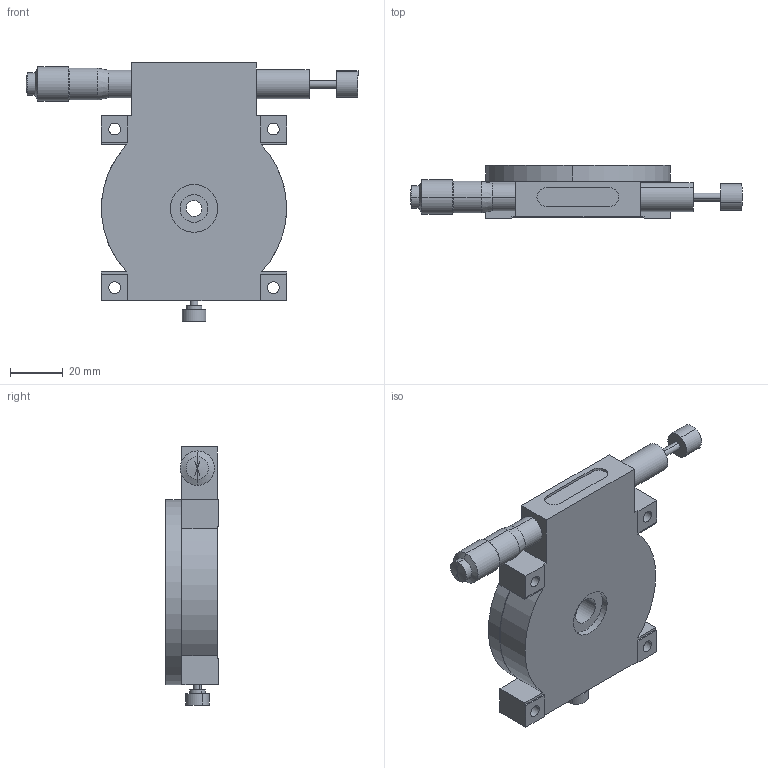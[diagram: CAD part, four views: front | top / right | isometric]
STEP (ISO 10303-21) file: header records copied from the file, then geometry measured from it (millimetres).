
FILE_DESCRIPTION (( 'STEP AP214' ), '1' );
FILE_NAME ('RS‐7041‐R.STEP', '2007-09-12T01:07:57', ( '' ), ( '' ), 'SwSTEP 2.0', 'SolidWorks 2007', '' );
FILE_SCHEMA (( 'AUTOMOTIVE_DESIGN' ));
Length unit declared in the file: millimetre
Products named in the file (3): RS7041R0‐2_ﾃﾞﾌｫﾙﾄ; RS7041R0‐1_ﾃﾞﾌｫﾙﾄ; RS‐7041‐R
Assembly tree (2 placements, depth 2):
  RS‐7041‐R
    RS7041R0‐1_ﾃﾞﾌｫﾙﾄ
    RS7041R0‐2_ﾃﾞﾌｫﾙﾄ
Bounding box: 125.5 x 20 x 97.6 mm (x, y, z)
Volume: 96843.3 mm3; surface area: 41508.6 mm2
Topology: 2 solids, 4 shells, 217 faces, 534 edges, 341 vertices
Faces by surface type: cylinder 121, plane 80, cone 16
Entity records: 6743 total; most frequent: CARTESIAN_POINT 1299, DIRECTION 1212, ORIENTED_EDGE 1048, EDGE_CURVE 524, AXIS2_PLACEMENT_3D 482, VERTEX_POINT 341, EDGE_LOOP 279, CIRCLE 260
